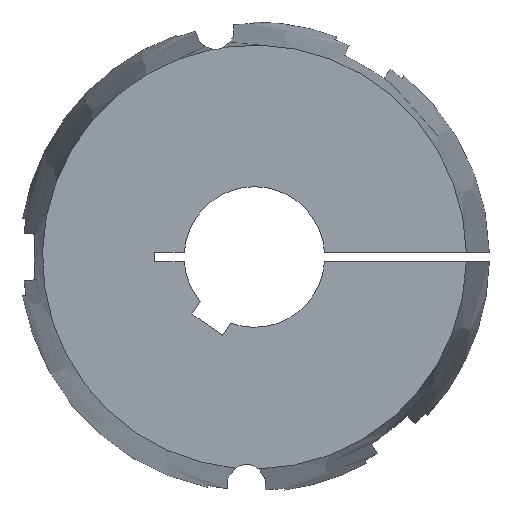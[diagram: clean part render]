
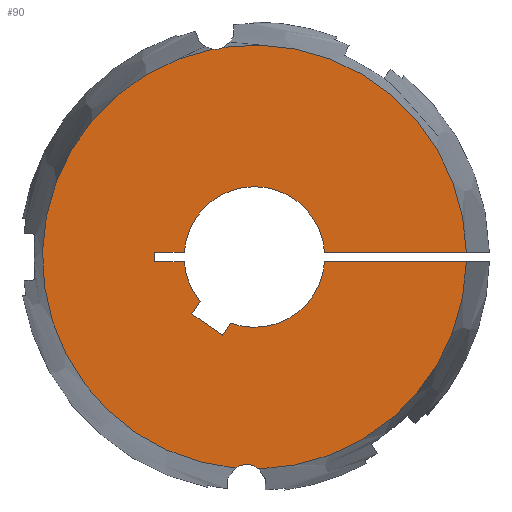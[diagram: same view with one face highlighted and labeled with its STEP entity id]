
A CAD part, left-side view. The second image highlights one B-rep face of the part: STEP entity #90.
In plain terms, the highlighted planar face has unit normal (-1, 0, 0).
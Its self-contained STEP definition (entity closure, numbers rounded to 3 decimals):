
#90 = ADVANCED_FACE( '', ( #140 ), #141, .F. );
#140 = FACE_OUTER_BOUND( '', #208, .T. );
#141 = PLANE( '', #209 );
#208 = EDGE_LOOP( '', ( #369, #370, #371, #372, #373, #374, #375, #376, #377, #378, #379, #380, #381, #382, #383, #384 ) );
#209 = AXIS2_PLACEMENT_3D( '', #385, #386, #387 );
#369 = ORIENTED_EDGE( '', *, *, #548, .F. );
#370 = ORIENTED_EDGE( '', *, *, #601, .F. );
#371 = ORIENTED_EDGE( '', *, *, #570, .T. );
#372 = ORIENTED_EDGE( '', *, *, #583, .T. );
#373 = ORIENTED_EDGE( '', *, *, #581, .T. );
#374 = ORIENTED_EDGE( '', *, *, #578, .T. );
#375 = ORIENTED_EDGE( '', *, *, #587, .T. );
#376 = ORIENTED_EDGE( '', *, *, #602, .T. );
#377 = ORIENTED_EDGE( '', *, *, #603, .T. );
#378 = ORIENTED_EDGE( '', *, *, #604, .T. );
#379 = ORIENTED_EDGE( '', *, *, #605, .T. );
#380 = ORIENTED_EDGE( '', *, *, #606, .T. );
#381 = ORIENTED_EDGE( '', *, *, #572, .T. );
#382 = ORIENTED_EDGE( '', *, *, #607, .F. );
#383 = ORIENTED_EDGE( '', *, *, #551, .F. );
#384 = ORIENTED_EDGE( '', *, *, #608, .F. );
#385 = CARTESIAN_POINT( '', ( -89., 0., 0. ) );
#386 = DIRECTION( '', ( 1., 0., 0. ) );
#387 = DIRECTION( '', ( 0., 1., 0. ) );
#548 = EDGE_CURVE( '', #649, #651, #652, .F. );
#551 = EDGE_CURVE( '', #655, #657, #658, .F. );
#570 = EDGE_CURVE( '', #693, #691, #694, .T. );
#572 = EDGE_CURVE( '', #696, #697, #698, .T. );
#578 = EDGE_CURVE( '', #709, #707, #710, .T. );
#581 = EDGE_CURVE( '', #714, #709, #715, .T. );
#583 = EDGE_CURVE( '', #691, #714, #717, .T. );
#587 = EDGE_CURVE( '', #707, #721, #723, .T. );
#601 = EDGE_CURVE( '', #693, #649, #745, .T. );
#602 = EDGE_CURVE( '', #721, #746, #747, .T. );
#603 = EDGE_CURVE( '', #746, #748, #749, .T. );
#604 = EDGE_CURVE( '', #748, #750, #751, .T. );
#605 = EDGE_CURVE( '', #750, #752, #753, .T. );
#606 = EDGE_CURVE( '', #752, #696, #754, .T. );
#607 = EDGE_CURVE( '', #657, #697, #755, .T. );
#608 = EDGE_CURVE( '', #651, #655, #756, .T. );
#649 = VERTEX_POINT( '', #815 );
#651 = VERTEX_POINT( '', #828 );
#652 = CIRCLE( '', #829, 5.25 );
#655 = VERTEX_POINT( '', #843 );
#657 = VERTEX_POINT( '', #861 );
#658 = CIRCLE( '', #862, 5.25 );
#691 = VERTEX_POINT( '', #935 );
#693 = VERTEX_POINT( '', #938 );
#694 = LINE( '', #939, #940 );
#696 = VERTEX_POINT( '', #948 );
#697 = VERTEX_POINT( '', #949 );
#698 = LINE( '', #950, #951 );
#707 = VERTEX_POINT( '', #969 );
#709 = VERTEX_POINT( '', #972 );
#710 = LINE( '', #973, #974 );
#714 = VERTEX_POINT( '', #980 );
#715 = LINE( '', #981, #982 );
#717 = CIRCLE( '', #985, 19. );
#721 = VERTEX_POINT( '', #990 );
#723 = LINE( '', #993, #994 );
#745 = CIRCLE( '', #1019, 57.277 );
#746 = VERTEX_POINT( '', #1020 );
#747 = CIRCLE( '', #1021, 19. );
#748 = VERTEX_POINT( '', #1022 );
#749 = LINE( '', #1023, #1024 );
#750 = VERTEX_POINT( '', #1025 );
#751 = LINE( '', #1026, #1027 );
#752 = VERTEX_POINT( '', #1028 );
#753 = LINE( '', #1029, #1030 );
#754 = CIRCLE( '', #1031, 19. );
#755 = CIRCLE( '', #1032, 57.277 );
#756 = CIRCLE( '', #1033, 57.277 );
#815 = CARTESIAN_POINT( '', ( -89., -1.169, -57.265 ) );
#828 = CARTESIAN_POINT( '', ( -89., 5.158, -57.044 ) );
#829 = AXIS2_PLACEMENT_3D( '', #1193, #1194, #1195 );
#843 = CARTESIAN_POINT( '', ( -89., 11.362, 56.138 ) );
#861 = CARTESIAN_POINT( '', ( -89., 8.229, 56.682 ) );
#862 = AXIS2_PLACEMENT_3D( '', #1196, #1197, #1198 );
#935 = CARTESIAN_POINT( '', ( -89., -18.959, -1.25 ) );
#938 = CARTESIAN_POINT( '', ( -89., -57.263, -1.25 ) );
#939 = CARTESIAN_POINT( '', ( -89., -63.5, -1.25 ) );
#940 = VECTOR( '', #1228, 1000. );
#948 = CARTESIAN_POINT( '', ( -89., -18.959, 1.25 ) );
#949 = CARTESIAN_POINT( '', ( -89., -57.263, 1.25 ) );
#950 = CARTESIAN_POINT( '', ( -89., 0., 1.25 ) );
#951 = VECTOR( '', #1229, 1000. );
#969 = CARTESIAN_POINT( '', ( -89., 16.887, -15.399 ) );
#972 = CARTESIAN_POINT( '', ( -89., 8.695, -21.135 ) );
#973 = CARTESIAN_POINT( '', ( -89., 8.695, -21.135 ) );
#974 = VECTOR( '', #1234, 1000. );
#980 = CARTESIAN_POINT( '', ( -89., 6.418, -17.883 ) );
#981 = CARTESIAN_POINT( '', ( -89., 6.418, -17.883 ) );
#982 = VECTOR( '', #1237, 1000. );
#985 = AXIS2_PLACEMENT_3D( '', #1239, #1240, #1241 );
#990 = CARTESIAN_POINT( '', ( -89., 14.61, -12.147 ) );
#993 = CARTESIAN_POINT( '', ( -89., 16.887, -15.399 ) );
#994 = VECTOR( '', #1247, 1000. );
#1019 = AXIS2_PLACEMENT_3D( '', #1281, #1282, #1283 );
#1020 = CARTESIAN_POINT( '', ( -89., 18.959, -1.25 ) );
#1021 = AXIS2_PLACEMENT_3D( '', #1284, #1285, #1286 );
#1022 = CARTESIAN_POINT( '', ( -89., 27., -1.25 ) );
#1023 = CARTESIAN_POINT( '', ( -89., 0., -1.25 ) );
#1024 = VECTOR( '', #1287, 1000. );
#1025 = CARTESIAN_POINT( '', ( -89., 27., 1.25 ) );
#1026 = CARTESIAN_POINT( '', ( -89., 27., -1.25 ) );
#1027 = VECTOR( '', #1288, 1000. );
#1028 = CARTESIAN_POINT( '', ( -89., 18.959, 1.25 ) );
#1029 = CARTESIAN_POINT( '', ( -89., 27., 1.25 ) );
#1030 = VECTOR( '', #1289, 1000. );
#1031 = AXIS2_PLACEMENT_3D( '', #1290, #1291, #1292 );
#1032 = AXIS2_PLACEMENT_3D( '', #1293, #1294, #1295 );
#1033 = AXIS2_PLACEMENT_3D( '', #1296, #1297, #1298 );
#1193 = CARTESIAN_POINT( '', ( -89., 2.141, -61.34 ) );
#1194 = DIRECTION( '', ( 1., 0., 0. ) );
#1195 = DIRECTION( '', ( 0., 1., 0. ) );
#1196 = CARTESIAN_POINT( '', ( -89., 10.652, 61.34 ) );
#1197 = DIRECTION( '', ( 1., 0., 0. ) );
#1198 = DIRECTION( '', ( 0., 1., 0. ) );
#1228 = DIRECTION( '', ( 0., 1., 0. ) );
#1229 = DIRECTION( '', ( 0., -1., 0. ) );
#1234 = DIRECTION( '', ( 0., 0.819, 0.574 ) );
#1237 = DIRECTION( '', ( 0., 0.574, -0.819 ) );
#1239 = CARTESIAN_POINT( '', ( -89., 0., 0. ) );
#1240 = DIRECTION( '', ( 1., 0., 0. ) );
#1241 = DIRECTION( '', ( 0., 0., -1. ) );
#1247 = DIRECTION( '', ( 0., -0.574, 0.819 ) );
#1281 = CARTESIAN_POINT( '', ( -89., 0., 0. ) );
#1282 = DIRECTION( '', ( 1., 0., 0. ) );
#1283 = DIRECTION( '', ( 0., 1., 0. ) );
#1284 = CARTESIAN_POINT( '', ( -89., 0., 0. ) );
#1285 = DIRECTION( '', ( 1., 0., 0. ) );
#1286 = DIRECTION( '', ( 0., 0., -1. ) );
#1287 = DIRECTION( '', ( 0., 1., 0. ) );
#1288 = DIRECTION( '', ( 0., 0., 1. ) );
#1289 = DIRECTION( '', ( 0., -1., 0. ) );
#1290 = CARTESIAN_POINT( '', ( -89., 0., 0. ) );
#1291 = DIRECTION( '', ( 1., 0., 0. ) );
#1292 = DIRECTION( '', ( 0., 0., -1. ) );
#1293 = CARTESIAN_POINT( '', ( -89., 0., 0. ) );
#1294 = DIRECTION( '', ( 1., 0., 0. ) );
#1295 = DIRECTION( '', ( 0., 1., 0. ) );
#1296 = CARTESIAN_POINT( '', ( -89., 0., 0. ) );
#1297 = DIRECTION( '', ( 1., 0., 0. ) );
#1298 = DIRECTION( '', ( 0., 1., 0. ) );
